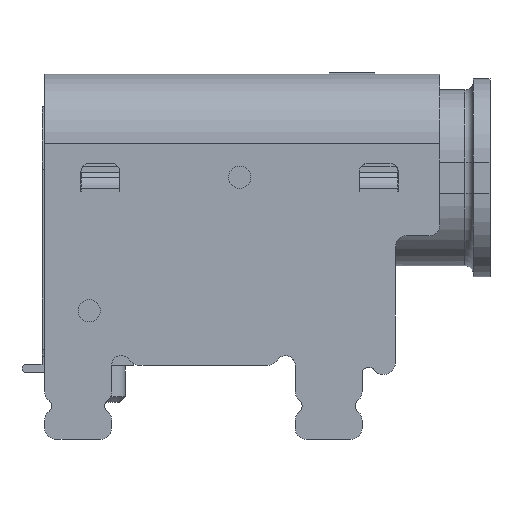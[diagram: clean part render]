
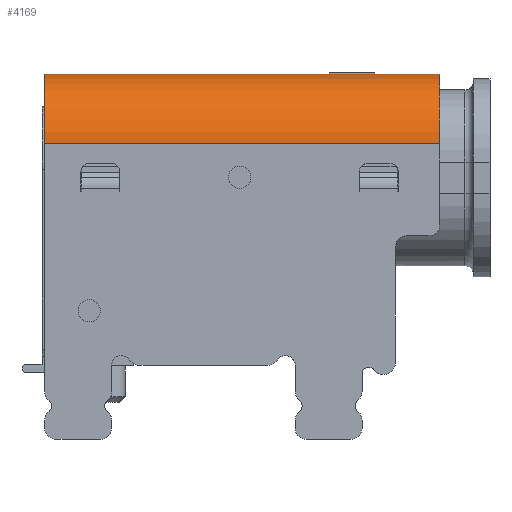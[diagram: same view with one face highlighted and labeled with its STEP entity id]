
A CAD part, front view. The second image highlights one B-rep face of the part: STEP entity #4169.
In plain terms, the highlighted cylindrical face has radius 1.25 mm (diameter 2.5 mm), a partial arc.
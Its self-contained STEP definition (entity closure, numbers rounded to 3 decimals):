
#1114=CARTESIAN_POINT('',(0.0,-3.485,-0.0));
#1115=VERTEX_POINT('',#1114);
#1122=CARTESIAN_POINT('',(7.1,-3.485,-0.0));
#1123=VERTEX_POINT('',#1122);
#1124=CARTESIAN_POINT('',(7.1,-3.485,-0.0));
#1125=DIRECTION('',(-1.0,0.0,0.0));
#1126=VECTOR('',#1125,1.0);
#1127=LINE('',#1124,#1126);
#1128=EDGE_CURVE('no 16614',#1123,#1115,#1127,.T.);
#4122=CARTESIAN_POINT('',(0.0,-4.735,-1.25));
#4123=VERTEX_POINT('',#4122);
#4130=CARTESIAN_POINT('',(0.0,-3.485,-1.25));
#4131=DIRECTION('',(-1.0,-0.0,0.0));
#4132=DIRECTION('',(-0.0,1.0,-0.0));
#4133=AXIS2_PLACEMENT_3D('',#4130,#4131,#4132);
#4134=CIRCLE('',#4133,1.25);
#4135=EDGE_CURVE('no 29590',#4123,#1115,#4134,.T.);
#4145=ORIENTED_EDGE('no 23686',*,*,#4135,.F.);
#4146=CARTESIAN_POINT('',(7.1,-4.735,-1.25));
#4147=VERTEX_POINT('',#4146);
#4148=CARTESIAN_POINT('',(7.1,-4.735,-1.25));
#4149=DIRECTION('',(-1.0,0.0,0.0));
#4150=VECTOR('',#4149,1.0);
#4151=LINE('',#4148,#4150);
#4152=EDGE_CURVE('no 1017',#4147,#4123,#4151,.T.);
#4153=ORIENTED_EDGE('no 6633',*,*,#4152,.F.);
#4154=CARTESIAN_POINT('',(7.1,-3.485,-1.25));
#4155=DIRECTION('',(-1.0,0.0,0.0));
#4156=DIRECTION('',(0.0,1.0,-0.0));
#4157=AXIS2_PLACEMENT_3D('',#4154,#4155,#4156);
#4158=CIRCLE('',#4157,1.25);
#4159=EDGE_CURVE('no 32640',#4147,#1123,#4158,.T.);
#4160=ORIENTED_EDGE('no 2409',*,*,#4159,.T.);
#4161=ORIENTED_EDGE('no 13828',*,*,#1128,.T.);
#4162=EDGE_LOOP('',(#4145,#4153,#4160,#4161));
#4163=FACE_OUTER_BOUND('',#4162,.T.);
#4164=CARTESIAN_POINT('',(7.1,-3.485,-1.25));
#4165=DIRECTION('',(-1.0,0.0,0.0));
#4166=DIRECTION('',(-0.0,0.707,-0.707));
#4167=AXIS2_PLACEMENT_3D('',#4164,#4165,#4166);
#4168=CYLINDRICAL_SURFACE('',#4167,1.25);
#4169=ADVANCED_FACE('no 34227',(#4163),#4168,.T.);
